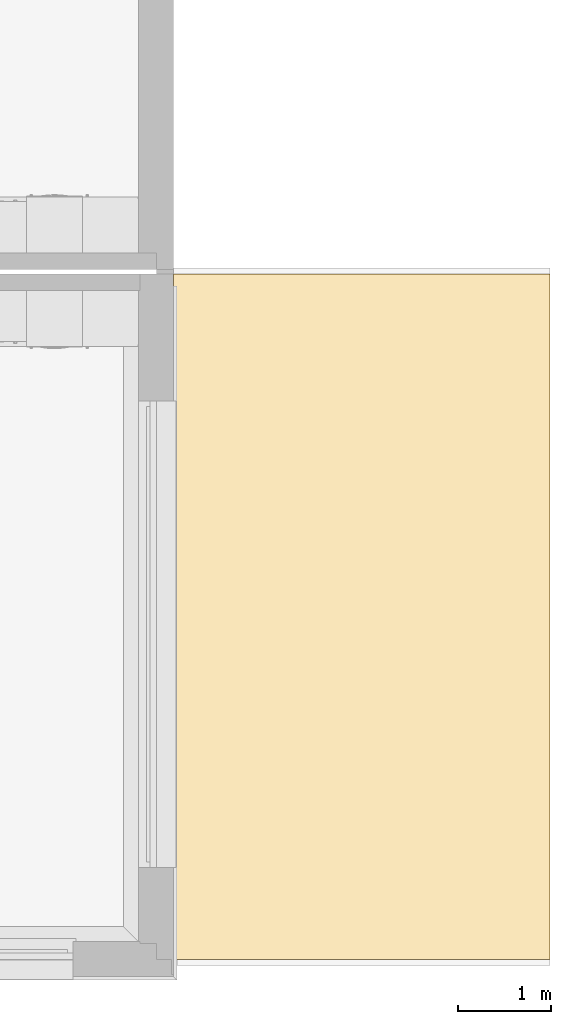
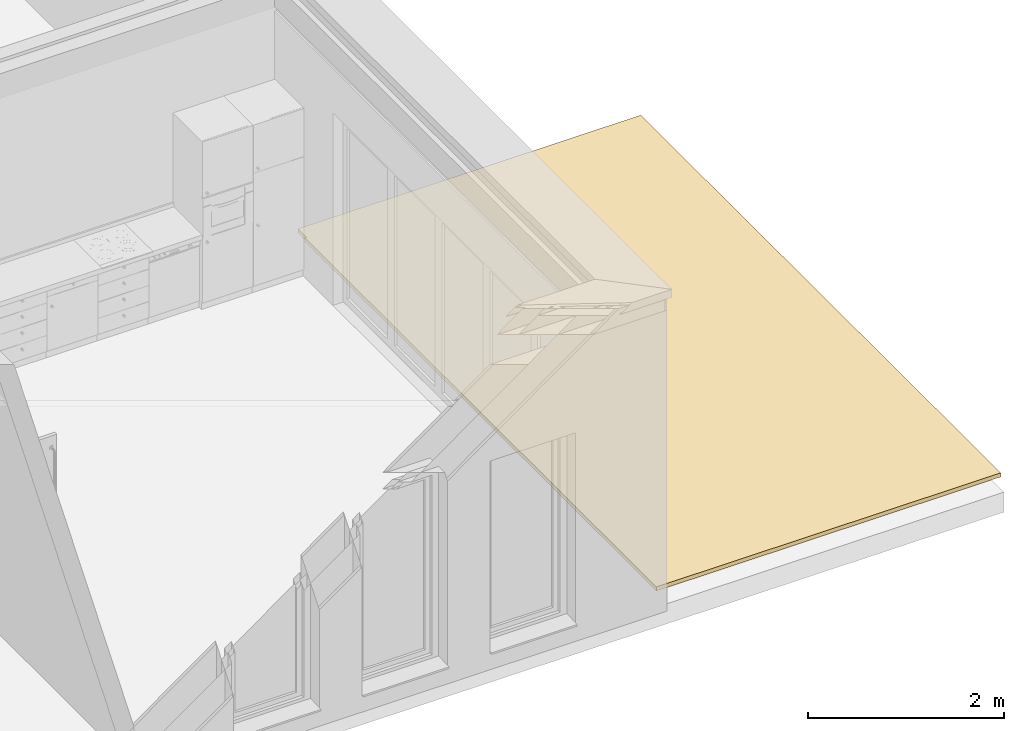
# One storey, part 12 of 28: 1 covering.
"""IFC4 building model written with IfcOpenShell, lengths in metres."""

from ifc_helpers import new_model, entity, si_unit, converted_unit, derived_unit, direction, frame, origin_with_axes, place, context, subcontext, project, spatial, triangles, material, type_object, element, save


model = new_model("IFC4")

# Units and contexts
model_context = context("Model", 3, precision=1e-05, world=origin_with_axes(), true_north=direction((-0.526213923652, 0.850352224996)))
body_context = subcontext(model_context, "Body", "Model", "MODEL_VIEW")
ifc_project = project(units=[si_unit("LENGTHUNIT", "METRE"), si_unit("AREAUNIT", "SQUARE_METRE"), si_unit("VOLUMEUNIT", "CUBIC_METRE"), converted_unit("PLANEANGLEUNIT", "DEGREE", entity("IfcPlaneAngleMeasure", 0.0174532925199), si_unit("PLANEANGLEUNIT", "RADIAN"), dimensions=[0, 0, 0, 0, 0, 0, 0]), si_unit("SOLIDANGLEUNIT", "STERADIAN"), converted_unit("TIMEUNIT", "Year", entity("IfcTimeMeasure", 31556926.0), si_unit("TIMEUNIT", "SECOND"), dimensions=[0, 0, 1, 0, 0, 0, 0]), si_unit("MASSUNIT", "GRAM", prefix="KILO"), si_unit("THERMODYNAMICTEMPERATUREUNIT", "DEGREE_CELSIUS"), si_unit("LUMINOUSINTENSITYUNIT", "LUMEN"), si_unit("ENERGYUNIT", "JOULE", prefix="MEGA"), derived_unit("THERMALCONDUCTANCEUNIT", [(si_unit("POWERUNIT", "WATT"), 1), (si_unit("LENGTHUNIT", "METRE"), -1), (si_unit("THERMODYNAMICTEMPERATUREUNIT", "KELVIN"), -1)]), derived_unit("SPECIFICHEATCAPACITYUNIT", [(si_unit("ENERGYUNIT", "JOULE"), 1), (si_unit("MASSUNIT", "GRAM", prefix="KILO"), -1), (si_unit("THERMODYNAMICTEMPERATUREUNIT", "KELVIN"), -1)]), derived_unit("MASSDENSITYUNIT", [(si_unit("MASSUNIT", "GRAM", prefix="KILO"), 1), (si_unit("VOLUMEUNIT", "CUBIC_METRE"), -1)])], contexts=[model_context])

# Site, building, storey, space
site_placement = place(None, origin_with_axes())
site = spatial("IfcSite", under=ifc_project, at=site_placement, Name="Gelände", CompositionType="ELEMENT")
building_placement = place(site_placement, origin_with_axes())
building = spatial("IfcBuilding", under=site, at=building_placement, Name="Haus vom Nikolaus", CompositionType="ELEMENT")
storey_placement = place(building_placement, origin_with_axes())
storey = spatial("IfcBuildingStorey", under=building, at=storey_placement, Name="EG", CompositionType="ELEMENT", Elevation=0.0)
space_placement = place(storey_placement, frame((-3.09538684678, 5.36483190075, 0.0), z_axis=(0.0, 0.0, 1.0), x_axis=(1.0, 0.0, 0.0)))
space = spatial("IfcSpace", under=storey, at=space_placement, Name="EG", CompositionType="ELEMENT")

# Covering
ifc_material = material(Name="Holz, Brettschichtholz")
covering_type = type_object("IfcCoveringType", Name="Holz, Brettschichtholz 50", PredefinedType="FLOORING")
covering_placement = place(space_placement, frame((14.5153844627, -5.29999978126, 0.2), z_axis=(0.0, 0.0, 1.0), x_axis=(1.0, 0.0, 0.0)))
element("IfcCovering", 1, at=covering_placement, inside=space, type_object=covering_type, material=ifc_material, Name="Decke-008", PredefinedType="FLOORING", context=body_context, shape_type="Tessellation", body=[
    triangles([(0.02, 7.34999995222, 0.0), (4.05961553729, 7.34999995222, -0.05), (0.02, 7.34999995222, -0.05), (4.05961553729, 7.34999995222, 0.0), (0.02, 7.17499995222, -0.05), (0.0, 0.0, -0.05), (4.05961553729, 0.0, -0.05), (0.0, 7.17499995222, -0.05), (0.02, 7.17499995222, 0.0), (0.0, 7.17499995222, 0.0), (0.0, 0.0, 0.0), (4.05961553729, 0.0, 0.0)], [[1, 2, 3], [1, 4, 2], [3, 2, 5], [6, 5, 7], [7, 5, 2], [5, 6, 8], [1, 5, 9], [1, 3, 5], [10, 11, 9], [4, 1, 9], [12, 9, 11], [12, 4, 9], [7, 4, 12], [7, 2, 4], [9, 8, 10], [9, 5, 8], [6, 12, 11], [6, 7, 12], [8, 11, 10], [8, 6, 11]], closed=True),
])

save(model, "model.ifc")
